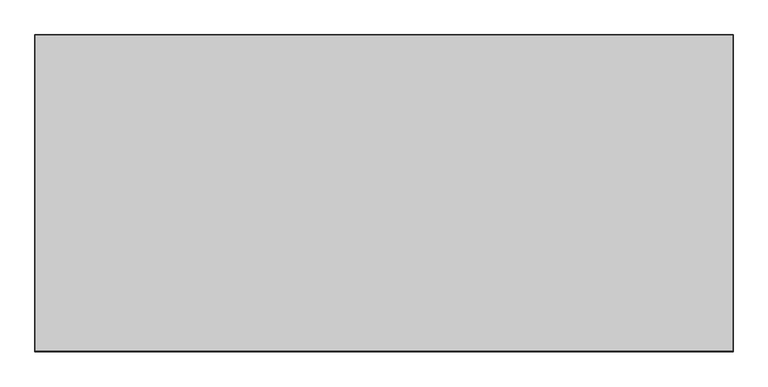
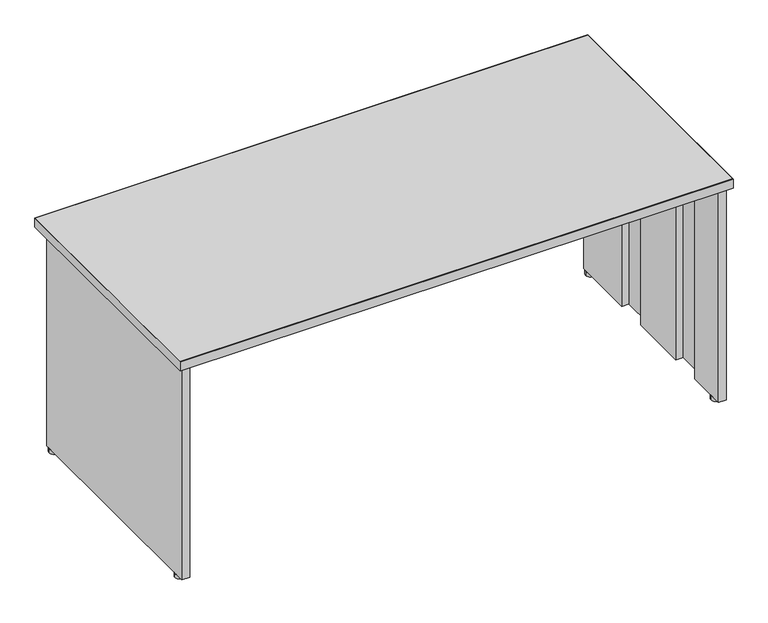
"""IFC4 building model written with IfcOpenShell, lengths in millimetres: furniture geometry, Steelcase - Kick Freestanding - Desk Shell - Partial Height Modesty Panel : 30D x 66W."""

from ifc_helpers import new_model, si_unit, point, frame, frame_2d, origin, origin_with_axes, place, context, project, spatial, polyline, circle_curve, trimmed, segment, composite_curve, outline, extrude, source, transform, mapped, element, save


def furniture_96080da9(model_context):
    return source(origin(), model_context, "Body", "SweptSolid", [
        extrude(outline(polyline([(677.0450425, -999.9647597), (677.0450425, -974.5647604), (2279.0738425, -974.5647604), (2279.0738425, -999.9647597), (677.0450425, -999.9647597)])), frame((0.0, 0.0, 390.144), z_axis=(0.0, 0.0, 1.0), x_axis=(1.0, 0.0, 0.0)), (0.0, 0.0, 1.0), 304.8),
        extrude(outline(composite_curve([segment(trimmed(circle_curve(frame_2d((665.1357759, -986.9367877)), 13.97), [point((651.1657759, -986.9367877))], [point((679.1057759, -986.9367877))], False, "CARTESIAN"), True, "CONTINUOUS"), segment(trimmed(circle_curve(frame_2d((665.1357759, -986.9367877)), 13.97), [point((679.1057759, -986.9367877))], [point((651.1657759, -986.9367877))], False, "CARTESIAN"), True, "CONTINUOUS")], self_intersect=False)), origin_with_axes(), (0.0, 0.0, 1.0), 12.446),
        extrude(outline(composite_curve([segment(trimmed(circle_curve(frame_2d((665.1357759, -1646.0441481)), 13.97), [point((651.1657759, -1646.0441481))], [point((679.1057759, -1646.0441481))], False, "CARTESIAN"), True, "CONTINUOUS"), segment(trimmed(circle_curve(frame_2d((665.1357759, -1646.0441481)), 13.97), [point((679.1057759, -1646.0441481))], [point((651.1657759, -1646.0441481))], False, "CARTESIAN"), True, "CONTINUOUS")], self_intersect=False)), origin_with_axes(), (0.0, 0.0, 1.0), 12.446),
        extrude(outline(polyline([(2279.0738425, -1172.2529604), (2279.0738425, -972.7867604), (2303.5594421, -972.7867604), (2303.5594421, -1680.938741), (2279.0738421, -1680.938741), (2279.0738421, -1556.6311348), (2301.5020425, -1556.6311348), (2301.5020425, -1456.9107682), (2279.0738421, -1456.9107682), (2279.0738421, -1271.9733647), (2301.5020425, -1271.9733647), (2301.5020425, -1172.2529604), (2279.0738425, -1172.2529604)])), frame((0.0, 0.0, 12.446), z_axis=(0.0, 0.0, 1.0), x_axis=(1.0, 0.0, 0.0)), (0.0, 0.0, 1.0), 682.498),
        extrude(outline(polyline([(677.0450425, -1172.2529604), (654.6168425, -1172.2529604), (654.6168425, -1271.9733647), (677.0450429, -1271.9733647), (677.0450429, -1456.9107682), (654.6168425, -1456.9107682), (654.6168425, -1556.6311348), (677.0450429, -1556.6311348), (677.0450429, -1680.938741), (652.5594429, -1680.938741), (652.5594429, -972.7867604), (677.0450425, -972.7867604), (677.0450425, -1172.2529604)])), frame((0.0, 0.0, 12.446), z_axis=(0.0, 0.0, 1.0), x_axis=(1.0, 0.0, 0.0)), (0.0, 0.0, 1.0), 682.498),
        extrude(outline(polyline([(2315.2688425, -932.6293604), (2315.2688425, -1690.6669215), (640.8500425, -1690.6669215), (640.8500425, -932.6293604), (2315.2688425, -932.6293604)])), frame((0.0, 0.0, 694.944), z_axis=(0.0, 0.0, 1.0), x_axis=(1.0, 0.0, 0.0)), (0.0, 0.0, 1.0), 28.956),
        extrude(outline(polyline([(2316.2594425, -931.6387604), (2316.2594425, -1693.6387604), (639.8594425, -1693.6387604), (639.8594425, -931.6387604), (2316.2594425, -931.6387604)]), holes=[polyline([(2315.2688425, -932.6293604), (640.8500425, -932.6293604), (640.8500425, -1690.6669215), (2315.2688425, -1690.6669215), (2315.2688425, -932.6293604)])]), frame((0.0, 0.0, 694.944), z_axis=(0.0, 0.0, 1.0), x_axis=(1.0, 0.0, 0.0)), (0.0, 0.0, 1.0), 28.956),
        extrude(outline(composite_curve([segment(trimmed(circle_curve(frame_2d((2290.9831091, -1646.0441481)), 13.97), [point((2277.0131091, -1646.0441481))], [point((2304.9531091, -1646.0441481))], False, "CARTESIAN"), True, "CONTINUOUS"), segment(trimmed(circle_curve(frame_2d((2290.9831091, -1646.0441481)), 13.97), [point((2304.9531091, -1646.0441481))], [point((2277.0131091, -1646.0441481))], False, "CARTESIAN"), True, "CONTINUOUS")], self_intersect=False)), origin_with_axes(), (0.0, 0.0, 1.0), 12.446),
        extrude(outline(composite_curve([segment(trimmed(circle_curve(frame_2d((2290.9831091, -986.9367877)), 13.97), [point((2304.9531091, -986.9367877))], [point((2277.0131091, -986.9367877))], False, "CARTESIAN"), True, "CONTINUOUS"), segment(trimmed(circle_curve(frame_2d((2290.9831091, -986.9367877)), 13.97), [point((2277.0131091, -986.9367877))], [point((2304.9531091, -986.9367877))], False, "CARTESIAN"), True, "CONTINUOUS")], self_intersect=False)), origin_with_axes(), (0.0, 0.0, 1.0), 12.446),
    ])


if __name__ == "__main__":
    model = new_model("IFC4")
    model_context = context("Model", 3, world=origin())
    ifc_project = project(units=[si_unit("LENGTHUNIT", "METRE", prefix="MILLI")], contexts=[model_context])
    site = spatial("IfcSite", under=ifc_project)
    building = spatial("IfcBuilding", under=site)
    placement = place(None, origin())
    furniture_shape = furniture_96080da9(model_context)
    element("IfcFurniture", 1, ObjectType="Steelcase - Kick Freestanding - Desk Shell - Partial Height Modesty Panel : 30D x 66W", at=placement, inside=building, context=model_context, shape_type="MappedRepresentation", body=[
        mapped(furniture_shape, transform((0.0, 0.0, 0.0), x_axis=(1.0, 0.0, 0.0), y_axis=(0.0, 1.0, 0.0), z_axis=(0.0, 0.0, 1.0))),
    ])
    save(model, "model.ifc")
